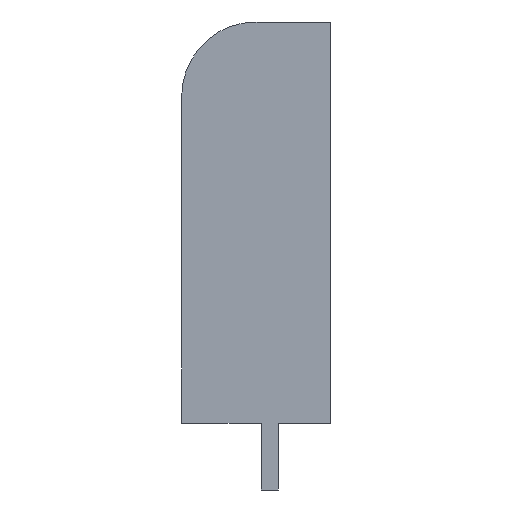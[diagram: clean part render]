
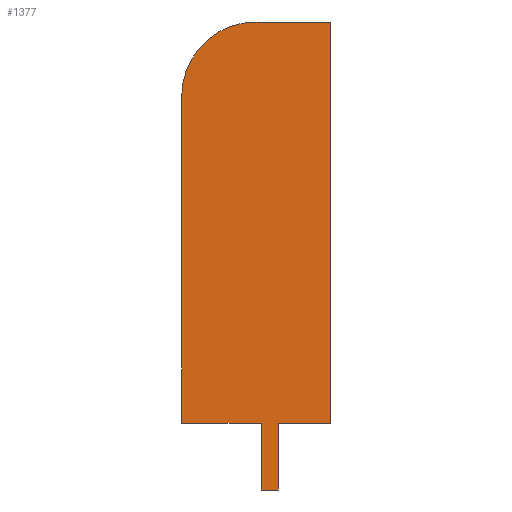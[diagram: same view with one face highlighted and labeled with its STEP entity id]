
A CAD part, left-side view. The second image highlights one B-rep face of the part: STEP entity #1377.
In plain terms, the highlighted planar face has unit normal (-1, 0, 0).
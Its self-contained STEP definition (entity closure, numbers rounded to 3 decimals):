
#44=PLANE('',#1475);
#130=FACE_OUTER_BOUND('',#213,.T.);
#213=EDGE_LOOP('',(#1254,#1255,#1256,#1257,#1258,#1259,#1260,#1261,#1262));
#233=CIRCLE('',#1456,5.);
#374=LINE('',#4926,#457);
#385=LINE('',#5579,#468);
#387=LINE('',#5583,#470);
#389=LINE('',#5587,#472);
#391=LINE('',#5591,#474);
#393=LINE('',#5595,#476);
#399=LINE('',#5605,#482);
#420=LINE('',#5651,#503);
#457=VECTOR('',#1626,10.);
#468=VECTOR('',#1657,10.);
#470=VECTOR('',#1661,10.);
#472=VECTOR('',#1665,10.);
#474=VECTOR('',#1669,10.);
#476=VECTOR('',#1673,10.);
#482=VECTOR('',#1681,10.);
#503=VECTOR('',#1726,10.);
#607=VERTEX_POINT('',#4920);
#609=VERTEX_POINT('',#4924);
#619=VERTEX_POINT('',#5572);
#620=VERTEX_POINT('',#5573);
#621=VERTEX_POINT('',#5578);
#622=VERTEX_POINT('',#5582);
#623=VERTEX_POINT('',#5586);
#624=VERTEX_POINT('',#5590);
#625=VERTEX_POINT('',#5594);
#786=EDGE_CURVE('',#607,#609,#374,.T.);
#808=EDGE_CURVE('',#619,#620,#233,.T.);
#811=EDGE_CURVE('',#621,#619,#385,.T.);
#813=EDGE_CURVE('',#622,#621,#387,.T.);
#815=EDGE_CURVE('',#623,#622,#389,.T.);
#817=EDGE_CURVE('',#624,#623,#391,.T.);
#819=EDGE_CURVE('',#625,#624,#393,.T.);
#825=EDGE_CURVE('',#607,#625,#399,.T.);
#848=EDGE_CURVE('',#609,#620,#420,.T.);
#1254=ORIENTED_EDGE('',*,*,#786,.T.);
#1255=ORIENTED_EDGE('',*,*,#848,.T.);
#1256=ORIENTED_EDGE('',*,*,#808,.F.);
#1257=ORIENTED_EDGE('',*,*,#811,.F.);
#1258=ORIENTED_EDGE('',*,*,#813,.F.);
#1259=ORIENTED_EDGE('',*,*,#815,.F.);
#1260=ORIENTED_EDGE('',*,*,#817,.F.);
#1261=ORIENTED_EDGE('',*,*,#819,.F.);
#1262=ORIENTED_EDGE('',*,*,#825,.F.);
#1377=ADVANCED_FACE('',(#130),#44,.T.);
#1456=AXIS2_PLACEMENT_3D('',#5574,#1651,#1652);
#1475=AXIS2_PLACEMENT_3D('',#5652,#1727,#1728);
#1626=DIRECTION('',(0.,0.,1.));
#1651=DIRECTION('center_axis',(1.,0.,0.));
#1652=DIRECTION('ref_axis',(0.,1.,0.));
#1657=DIRECTION('',(0.,0.,1.));
#1661=DIRECTION('',(0.,1.,0.));
#1665=DIRECTION('',(0.,0.,1.));
#1669=DIRECTION('',(0.,1.,0.));
#1673=DIRECTION('',(0.,0.,-1.));
#1681=DIRECTION('',(0.,1.,0.));
#1726=DIRECTION('',(0.,1.,0.));
#1727=DIRECTION('center_axis',(-1.,0.,0.));
#1728=DIRECTION('ref_axis',(0.,0.,1.));
#4920=CARTESIAN_POINT('',(-20.8,0.,0.));
#4924=CARTESIAN_POINT('',(-20.8,0.,27.));
#4926=CARTESIAN_POINT('',(-20.8,0.,0.));
#5572=CARTESIAN_POINT('',(-20.8,10.,22.));
#5573=CARTESIAN_POINT('',(-20.8,5.,27.));
#5574=CARTESIAN_POINT('Origin',(-20.8,5.,22.));
#5578=CARTESIAN_POINT('',(-20.8,10.,0.));
#5579=CARTESIAN_POINT('',(-20.8,10.,0.));
#5582=CARTESIAN_POINT('',(-20.8,4.65,0.));
#5583=CARTESIAN_POINT('',(-20.8,0.,0.));
#5586=CARTESIAN_POINT('',(-20.8,4.65,-4.5));
#5587=CARTESIAN_POINT('',(-20.8,4.65,-4.5));
#5590=CARTESIAN_POINT('',(-20.8,3.5,-4.5));
#5591=CARTESIAN_POINT('',(-20.8,3.5,-4.5));
#5594=CARTESIAN_POINT('',(-20.8,3.5,0.));
#5595=CARTESIAN_POINT('',(-20.8,3.5,0.));
#5605=CARTESIAN_POINT('',(-20.8,0.,0.));
#5651=CARTESIAN_POINT('',(-20.8,0.,27.));
#5652=CARTESIAN_POINT('Origin',(-20.8,0.,0.));
